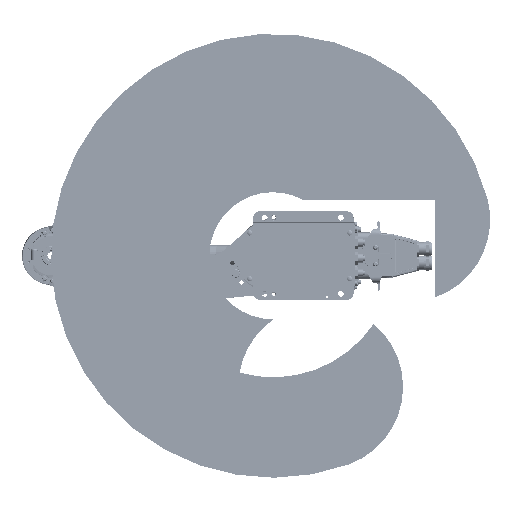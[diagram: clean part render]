
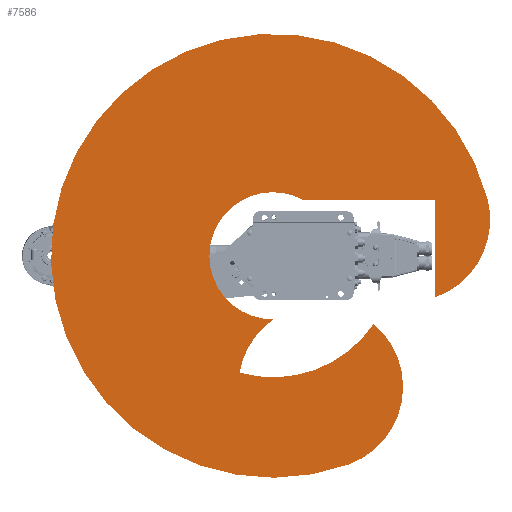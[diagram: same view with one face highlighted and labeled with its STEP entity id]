
A CAD part, front view. The second image highlights one B-rep face of the part: STEP entity #7586.
In plain terms, the highlighted planar face has unit normal (0, -1, 0).
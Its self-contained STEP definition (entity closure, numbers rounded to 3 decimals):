
#7586 = ADVANCED_FACE( '', ( #18430 ), #18431, .F. );
#18430 = FACE_OUTER_BOUND( '', #33427, .T. );
#18431 = PLANE( '', #33428 );
#33427 = EDGE_LOOP( '', ( #56655, #56656, #56657, #56658, #56659, #56660, #56661, #56662 ) );
#33428 = AXIS2_PLACEMENT_3D( '', #56663, #56664, #56665 );
#56655 = ORIENTED_EDGE( '', *, *, #85451, .T. );
#56656 = ORIENTED_EDGE( '', *, *, #82405, .F. );
#56657 = ORIENTED_EDGE( '', *, *, #85452, .F. );
#56658 = ORIENTED_EDGE( '', *, *, #85453, .F. );
#56659 = ORIENTED_EDGE( '', *, *, #85454, .T. );
#56660 = ORIENTED_EDGE( '', *, *, #85455, .T. );
#56661 = ORIENTED_EDGE( '', *, *, #85456, .T. );
#56662 = ORIENTED_EDGE( '', *, *, #85440, .T. );
#56663 = CARTESIAN_POINT( '', ( 103.366, 0., 37.622 ) );
#56664 = DIRECTION( '', ( 0., 1., 0. ) );
#56665 = DIRECTION( '', ( 0., 0., 1. ) );
#82405 = EDGE_CURVE( '', #98979, #98977, #98981, .T. );
#85440 = EDGE_CURVE( '', #103770, #103771, #103772, .T. );
#85451 = EDGE_CURVE( '', #103771, #98977, #103786, .T. );
#85452 = EDGE_CURVE( '', #103787, #98979, #103788, .T. );
#85453 = EDGE_CURVE( '', #103789, #103787, #103790, .T. );
#85454 = EDGE_CURVE( '', #103789, #103791, #103792, .T. );
#85455 = EDGE_CURVE( '', #103791, #103793, #103794, .T. );
#85456 = EDGE_CURVE( '', #103793, #103770, #103795, .T. );
#98977 = VERTEX_POINT( '', #123706 );
#98979 = VERTEX_POINT( '', #123709 );
#98981 = CIRCLE( '', #123712, 130. );
#103770 = VERTEX_POINT( '', #131650 );
#103771 = VERTEX_POINT( '', #131651 );
#103772 = LINE( '', #131652, #131653 );
#103786 = LINE( '', #131669, #131670 );
#103787 = VERTEX_POINT( '', #131671 );
#103788 = CIRCLE( '', #131672, 350. );
#103789 = VERTEX_POINT( '', #131673 );
#103790 = CIRCLE( '', #131674, 130. );
#103791 = VERTEX_POINT( '', #131675 );
#103792 = CIRCLE( '', #131676, 191.57 );
#103793 = VERTEX_POINT( '', #131677 );
#103794 = CIRCLE( '', #131678, 130. );
#103795 = CIRCLE( '', #131679, 100.24 );
#123706 = CARTESIAN_POINT( '', ( 65.918, 0., 255. ) );
#123709 = CARTESIAN_POINT( '', ( -90.587, 0., 338.074 ) );
#123712 = AXIS2_PLACEMENT_3D( '', #149275, #149276, #149277 );
#131650 = CARTESIAN_POINT( '', ( -88., 0., 48.001 ) );
#131651 = CARTESIAN_POINT( '', ( -88., 0., 255. ) );
#131652 = CARTESIAN_POINT( '', ( -88., 0., 48.001 ) );
#131653 = VECTOR( '', #152752, 1000. );
#131669 = CARTESIAN_POINT( '', ( -88., 0., 255. ) );
#131670 = VECTOR( '', #152764, 1000. );
#131671 = CARTESIAN_POINT( '', ( 328.892, 0., 119.707 ) );
#131672 = AXIS2_PLACEMENT_3D( '', #152765, #152766, #152767 );
#131673 = CARTESIAN_POINT( '', ( 107.145, 0., 158.805 ) );
#131674 = AXIS2_PLACEMENT_3D( '', #152768, #152769, #152770 );
#131675 = CARTESIAN_POINT( '', ( 184.156, 0., -52.78 ) );
#131676 = AXIS2_PLACEMENT_3D( '', #152771, #152772, #152773 );
#131677 = CARTESIAN_POINT( '', ( 100.238, 0., 0.687 ) );
#131678 = AXIS2_PLACEMENT_3D( '', #152774, #152775, #152776 );
#131679 = AXIS2_PLACEMENT_3D( '', #152777, #152778, #152779 );
#149275 = CARTESIAN_POINT( '', ( -56.94, 0., 212.504 ) );
#149276 = DIRECTION( '', ( 0., 1., 0. ) );
#149277 = DIRECTION( '', ( 1., 0., 0. ) );
#152752 = DIRECTION( '', ( 0., 0., 1. ) );
#152764 = DIRECTION( '', ( 1., 0., 0. ) );
#152765 = CARTESIAN_POINT( '', ( 0., 0., 0. ) );
#152766 = DIRECTION( '', ( 0., 1., 0. ) );
#152767 = DIRECTION( '', ( 1., 0., 0. ) );
#152768 = CARTESIAN_POINT( '', ( 206.732, 0., 75.244 ) );
#152769 = DIRECTION( '', ( 0., 1., 0. ) );
#152770 = DIRECTION( '', ( 1., 0., 0. ) );
#152771 = CARTESIAN_POINT( '', ( 0., 0., 0. ) );
#152772 = DIRECTION( '', ( 0., 1., 0. ) );
#152773 = DIRECTION( '', ( 1., 0., 0. ) );
#152774 = CARTESIAN_POINT( '', ( 206.732, 0., 75.244 ) );
#152775 = DIRECTION( '', ( 0., 1., 0. ) );
#152776 = DIRECTION( '', ( 1., 0., 0. ) );
#152777 = CARTESIAN_POINT( '', ( 0., 0., 0. ) );
#152778 = DIRECTION( '', ( 0., 1., 0. ) );
#152779 = DIRECTION( '', ( 1., 0., 0. ) );
